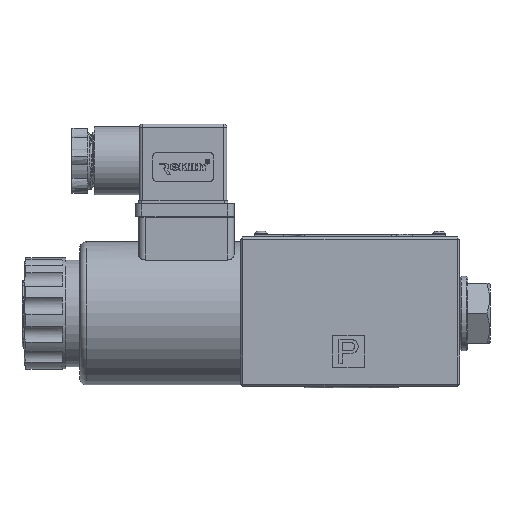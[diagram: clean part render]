
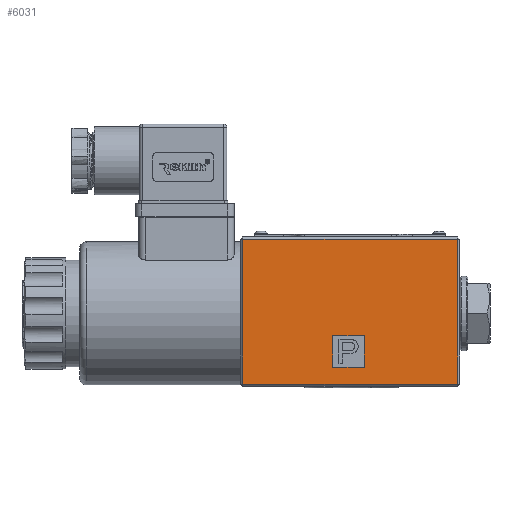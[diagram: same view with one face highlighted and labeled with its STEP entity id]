
A CAD part, top view. The second image highlights one B-rep face of the part: STEP entity #6031.
In plain terms, the highlighted planar face has unit normal (0, 0, 1).
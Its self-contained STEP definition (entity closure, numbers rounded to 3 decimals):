
#3249=PLANE('',#48644);
#4265=FACE_BOUND('',#11141,.T.);
#4266=FACE_BOUND('',#11142,.T.);
#6031=ADVANCED_FACE('',(#4265,#4266),#3249,.T.);
#11141=EDGE_LOOP('',(#21125,#21126,#21127,#21128));
#11142=EDGE_LOOP('',(#21129,#21130,#21131,#21132));
#21125=ORIENTED_EDGE('',*,*,#34160,.T.);
#21126=ORIENTED_EDGE('',*,*,#34161,.T.);
#21127=ORIENTED_EDGE('',*,*,#34162,.T.);
#21128=ORIENTED_EDGE('',*,*,#34163,.T.);
#21129=ORIENTED_EDGE('',*,*,#34164,.T.);
#21130=ORIENTED_EDGE('',*,*,#34165,.T.);
#21131=ORIENTED_EDGE('',*,*,#34166,.T.);
#21132=ORIENTED_EDGE('',*,*,#34167,.T.);
#28679=VERTEX_POINT('',#98489);
#28680=VERTEX_POINT('',#98490);
#28681=VERTEX_POINT('',#98492);
#28682=VERTEX_POINT('',#98494);
#28683=VERTEX_POINT('',#98497);
#28684=VERTEX_POINT('',#98498);
#28685=VERTEX_POINT('',#98500);
#28686=VERTEX_POINT('',#98502);
#34160=EDGE_CURVE('',#28679,#28680,#39816,.T.);
#34161=EDGE_CURVE('',#28680,#28681,#39817,.T.);
#34162=EDGE_CURVE('',#28681,#28682,#39818,.T.);
#34163=EDGE_CURVE('',#28682,#28679,#39819,.T.);
#34164=EDGE_CURVE('',#28683,#28684,#39820,.T.);
#34165=EDGE_CURVE('',#28684,#28685,#39821,.T.);
#34166=EDGE_CURVE('',#28685,#28686,#39822,.T.);
#34167=EDGE_CURVE('',#28686,#28683,#39823,.T.);
#39816=LINE('',#98488,#44960);
#39817=LINE('',#98491,#44961);
#39818=LINE('',#98493,#44962);
#39819=LINE('',#98495,#44963);
#39820=LINE('',#98496,#44964);
#39821=LINE('',#98499,#44965);
#39822=LINE('',#98501,#44966);
#39823=LINE('',#98503,#44967);
#44960=VECTOR('',#56590,1.);
#44961=VECTOR('',#56591,1.);
#44962=VECTOR('',#56592,1.);
#44963=VECTOR('',#56593,1.);
#44964=VECTOR('',#56594,1.);
#44965=VECTOR('',#56595,1.);
#44966=VECTOR('',#56596,1.);
#44967=VECTOR('',#56597,1.);
#48644=AXIS2_PLACEMENT_3D('',#98504,#56598,#56599);
#56590=DIRECTION('',(0.,-1.,0.));
#56591=DIRECTION('',(1.,0.,0.));
#56592=DIRECTION('',(0.,1.,0.));
#56593=DIRECTION('',(-1.,0.,0.));
#56594=DIRECTION('',(0.,1.,0.));
#56595=DIRECTION('',(1.,0.,0.));
#56596=DIRECTION('',(0.,-1.,0.));
#56597=DIRECTION('',(-1.,0.,0.));
#56598=DIRECTION('',(0.,0.,1.));
#56599=DIRECTION('',(-1.,0.,0.));
#98488=CARTESIAN_POINT('',(106.926,172.261,22.));
#98489=CARTESIAN_POINT('',(106.926,195.061,22.));
#98490=CARTESIAN_POINT('',(106.926,149.461,22.));
#98491=CARTESIAN_POINT('',(140.726,149.461,22.));
#98492=CARTESIAN_POINT('',(174.526,149.461,22.));
#98493=CARTESIAN_POINT('',(174.526,195.761,22.));
#98494=CARTESIAN_POINT('',(174.526,195.061,22.));
#98495=CARTESIAN_POINT('',(106.226,195.061,22.));
#98496=CARTESIAN_POINT('',(135.226,154.765,22.));
#98497=CARTESIAN_POINT('',(135.226,154.765,22.));
#98498=CARTESIAN_POINT('',(135.226,164.765,22.));
#98499=CARTESIAN_POINT('',(135.226,164.765,22.));
#98500=CARTESIAN_POINT('',(145.226,164.765,22.));
#98501=CARTESIAN_POINT('',(145.226,164.765,22.));
#98502=CARTESIAN_POINT('',(145.226,154.765,22.));
#98503=CARTESIAN_POINT('',(145.226,154.765,22.));
#98504=CARTESIAN_POINT('',(140.726,172.261,22.));
